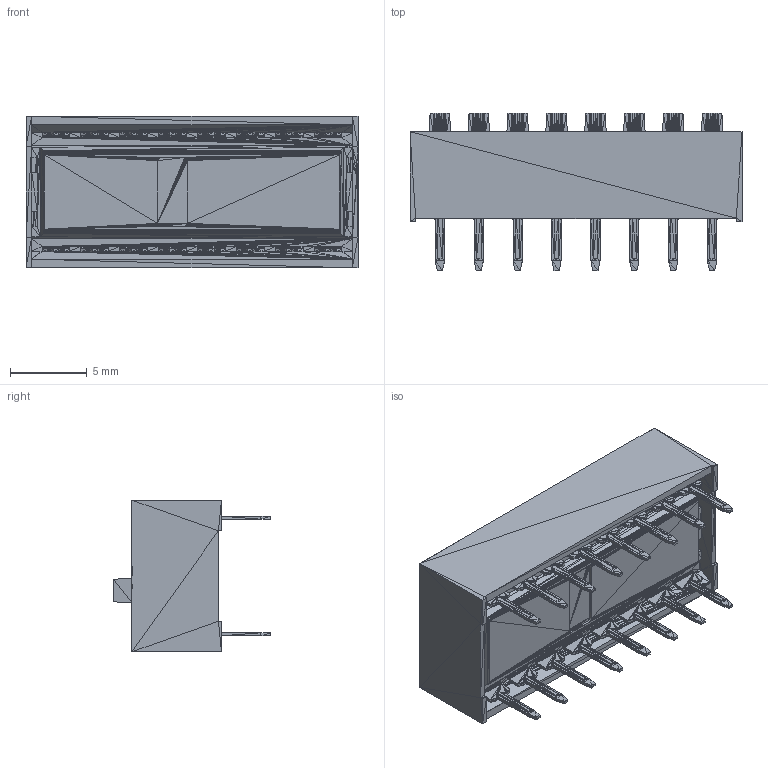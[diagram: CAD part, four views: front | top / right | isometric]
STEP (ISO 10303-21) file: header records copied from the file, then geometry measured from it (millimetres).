
FILE_DESCRIPTION(/* description */ (''),/* implementation_level */ '2;1');
FILE_NAME(/* name */ '08.stp',/* time_stamp */ '2020-9-3T13:21:31.4452555',/* author */ ('knitter-switch'),/* organization */ (''),/* preprocessor_version */ 'InStep v2',/* originating_system */ 'InStep V2.3',/* authorisation */ '');
FILE_SCHEMA (('AUTOMOTIVE_DESIGN { 1 0 10303 214 1 1 1 1 }'));
Length unit declared in the file: centimetre
Products named in the file (1): None
Bounding box: 21.68 x 10.25 x 9.9 mm (x, y, z)
Surface area: 2237.4 mm2 (no closed solid volume)
Topology: 0 solids, 1 shells, 20764 faces, 31302 edges, 10316 vertices
Faces by surface type: plane 20764
Entity records: 295010 total; most frequent: ORIENTED_EDGE 62604, DIRECTION 33043, LINE 31302, EDGE_CURVE 31302, AXIS2_PLACEMENT_3D 20765, EDGE_LOOP 20764, FACE_OUTER_BOUND 20764, PLANE 20764
